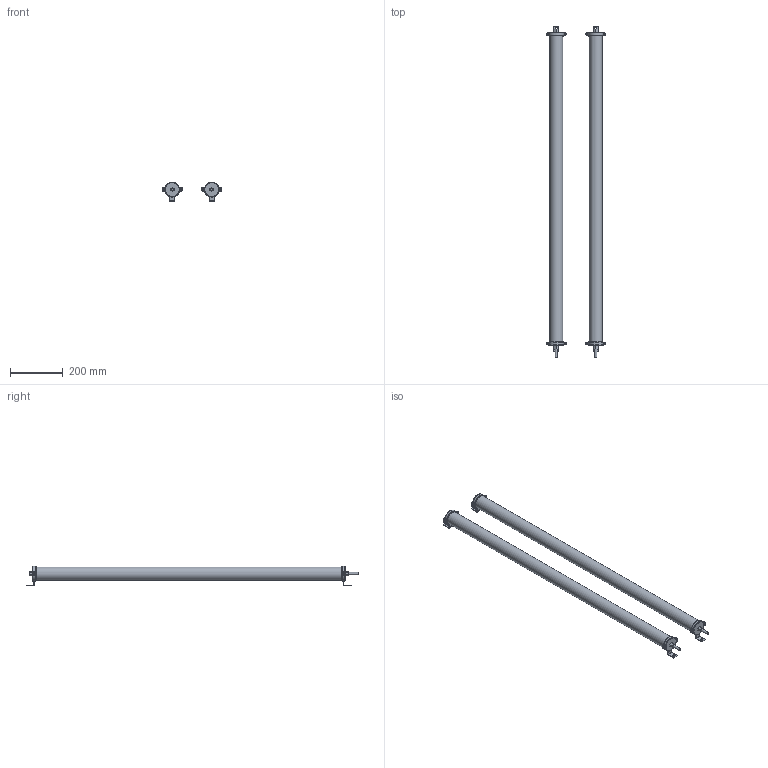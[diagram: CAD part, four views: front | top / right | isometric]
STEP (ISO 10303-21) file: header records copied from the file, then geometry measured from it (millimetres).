
FILE_DESCRIPTION( ( 'STEP AP203' ), '1' );
FILE_NAME( '//expscmdclustefs.cadenas.external/client_exchange/iodir/jobs/output/wkb80972601_no0/STEP/OY447S_2_03.stp', ' ', ( ' ' ), ( ' ' ), 'PSStep 15.0.47', 'PARTsolutions', ' ' );
FILE_SCHEMA( ( 'CONFIG_CONTROL_DESIGN' ) );
Length unit declared in the file: millimetre
Products named in the file (2): OY447S; _OY407S-P1
Assembly tree (2 placements, depth 2):
  OY447S
    _OY407S-P1  x2
Bounding box: 226 x 1260.65 x 74.9 mm (x, y, z)
Volume: 4723373 mm3; surface area: 409214 mm2
Topology: 2 solids, 2 shells, 390 faces, 972 edges, 646 vertices
Faces by surface type: plane 228, cylinder 138, torus 16, cone 8
Full cylindrical faces by diameter (mm): 4.75 x24, 9 x4, 9.5 x8, 50 x2, 53 x4, 56 x8
Entity records: 5637 total; most frequent: DIRECTION 992, CARTESIAN_POINT 942, ORIENTED_EDGE 868, EDGE_CURVE 434, AXIS2_PLACEMENT_3D 360, VERTEX_POINT 310, EDGE_LOOP 276, LINE 272
